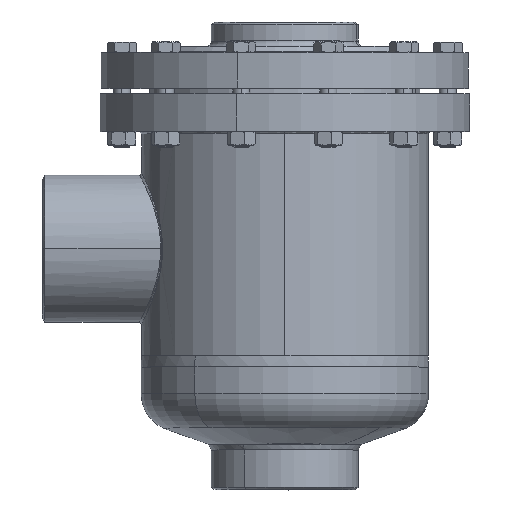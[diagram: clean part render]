
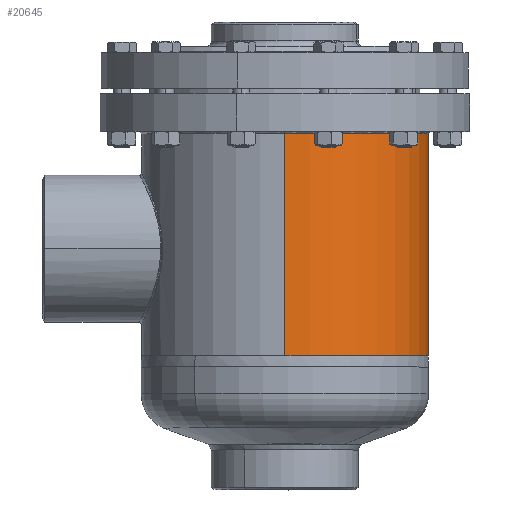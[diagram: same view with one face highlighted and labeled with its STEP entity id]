
A CAD part, top view. The second image highlights one B-rep face of the part: STEP entity #20645.
In plain terms, the highlighted cylindrical face has radius 136 mm (diameter 272 mm), a partial arc.
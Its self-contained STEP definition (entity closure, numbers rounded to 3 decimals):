
#32802 = EDGE_CURVE ( 'NONE', #25299, #32498, #25199, .T. ) ;
#17479 = LINE ( 'NONE', #17480, #17481 ) ;
#17480 = CARTESIAN_POINT ( 'NONE',  ( 0., 45.442, 136. ) ) ;
#17481 = VECTOR ( 'NONE', #17482, 1000. ) ;
#17482 = DIRECTION ( 'NONE',  ( 0., 1., 0. ) ) ;
#18175 = ORIENTED_EDGE ( 'NONE', *, *, #32802, .T. ) ;
#19176 = ORIENTED_EDGE ( 'NONE', *, *, #23581, .T. ) ;
#19623 = CARTESIAN_POINT ( 'NONE',  ( 0., 207.688, 136. ) ) ;
#20182 = EDGE_LOOP ( 'NONE', ( #19176, #18175, #31760, #30569 ) ) ;
#20645 = ADVANCED_FACE ( 'NONE', ( #4498 ), #4499, .T. ) ;
#20646 = CIRCLE ( 'NONE', #20647, 136. ) ;
#20647 = AXIS2_PLACEMENT_3D ( 'NONE', #20648, #20649, #20650 ) ;
#20648 = CARTESIAN_POINT ( 'NONE',  ( 0., 207.688, 0. ) ) ;
#20649 = DIRECTION ( 'NONE',  ( 0., 1., 0. ) ) ;
#20650 = DIRECTION ( 'NONE',  ( 0., 0., 1. ) ) ;
#4498 = FACE_OUTER_BOUND ( 'NONE', #20182, .T. ) ;
#4499 = CYLINDRICAL_SURFACE ( 'NONE', #4500, 136. ) ;
#4500 = AXIS2_PLACEMENT_3D ( 'NONE', #4501, #4502, #4503 ) ;
#4501 = CARTESIAN_POINT ( 'NONE',  ( 0., 45.442, 0. ) ) ;
#4502 = DIRECTION ( 'NONE',  ( 0., 1., 0. ) ) ;
#4503 = DIRECTION ( 'NONE',  ( 0., 0., 1. ) ) ;
#23154 = VERTEX_POINT ( 'NONE', #24358 ) ;
#23581 = EDGE_CURVE ( 'NONE', #23154, #25299, #24817, .T. ) ;
#23809 = CARTESIAN_POINT ( 'NONE',  ( 0., 207.688, -136. ) ) ;
#24358 = CARTESIAN_POINT ( 'NONE',  ( 0., -5.155, 136. ) ) ;
#24817 = CIRCLE ( 'NONE', #24818, 136. ) ;
#24818 = AXIS2_PLACEMENT_3D ( 'NONE', #24819, #24820, #24821 ) ;
#24819 = CARTESIAN_POINT ( 'NONE',  ( 0., -5.155, 0. ) ) ;
#24820 = DIRECTION ( 'NONE',  ( 0., 1., 0. ) ) ;
#24821 = DIRECTION ( 'NONE',  ( 0., 0., 1. ) ) ;
#25199 = LINE ( 'NONE', #25200, #25201 ) ;
#25200 = CARTESIAN_POINT ( 'NONE',  ( 0., 45.442, -136. ) ) ;
#25201 = VECTOR ( 'NONE', #25202, 1000. ) ;
#25202 = DIRECTION ( 'NONE',  ( 0., 1., 0. ) ) ;
#25299 = VERTEX_POINT ( 'NONE', #25897 ) ;
#25897 = CARTESIAN_POINT ( 'NONE',  ( 0., -5.155, -136. ) ) ;
#30173 = EDGE_CURVE ( 'NONE', #23154, #31121, #17479, .T. ) ;
#30569 = ORIENTED_EDGE ( 'NONE', *, *, #30173, .F. ) ;
#31121 = VERTEX_POINT ( 'NONE', #19623 ) ;
#31363 = EDGE_CURVE ( 'NONE', #31121, #32498, #20646, .T. ) ;
#31760 = ORIENTED_EDGE ( 'NONE', *, *, #31363, .F. ) ;
#32498 = VERTEX_POINT ( 'NONE', #23809 ) ;
